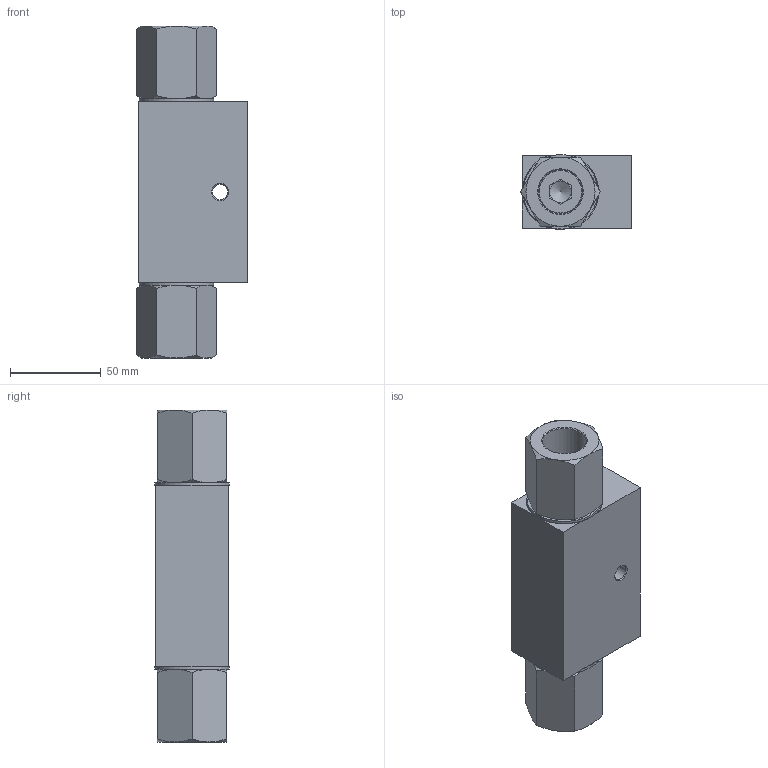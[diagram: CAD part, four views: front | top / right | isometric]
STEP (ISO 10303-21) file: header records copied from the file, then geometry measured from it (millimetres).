
FILE_DESCRIPTION(/* description */ (''),/* implementation_level */ '2;1');
FILE_NAME(/* name */ 'C:\Users\fabio.radici.LUEN\Desktop\003-033-AJ0-A_Shrinkwrap.stp',/* time_stamp */ '2020-05-28T16:48:47+02:00',/* author */ ('Fabio Radici'),/* organization */ (''),/* preprocessor_version */ 'ST-DEVELOPER v18',/* originating_system */ 'Autodesk Inventor 2020',/* authorisation */ '');
FILE_SCHEMA (('AUTOMOTIVE_DESIGN { 1 0 10303 214 3 1 1 }'));
Length unit declared in the file: millimetre
Products named in the file (1): 003-033-AJ0-A_Shrinkwrap
Bounding box: 60.94 x 40.99 x 182.6 mm (x, y, z)
Surface area: 57374.3 mm2 (no closed solid volume)
Topology: 0 solids, 13 shells, 101 faces, 287 edges, 189 vertices
Faces by surface type: cone 40, plane 36, cylinder 25
Full cylindrical faces by diameter (mm): 8.5 x1, 9 x2, 12 x4, 24.117 x4, 30.291 x2, 33.249 x2, 36 x2, 41 x2
Entity records: 3736 total; most frequent: CARTESIAN_POINT 1010, DIRECTION 552, ORIENTED_EDGE 502, EDGE_CURVE 285, AXIS2_PLACEMENT_3D 229, VERTEX_POINT 189, CIRCLE 127, EDGE_LOOP 120
